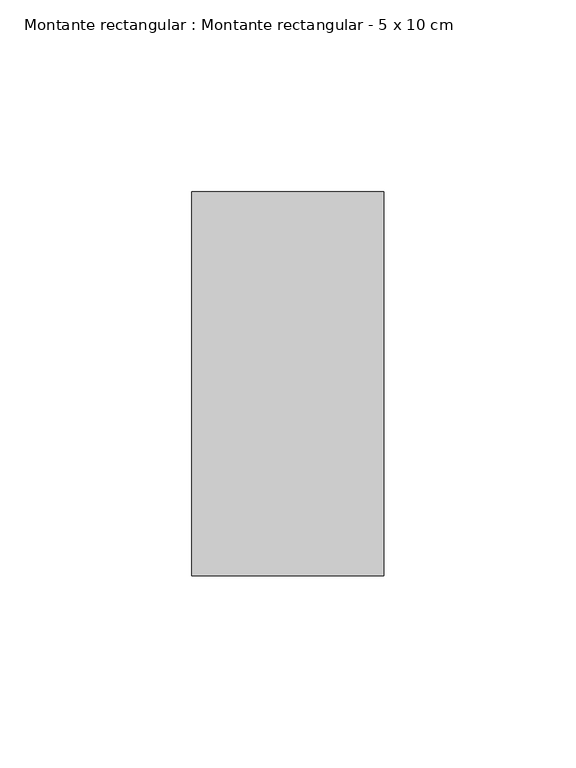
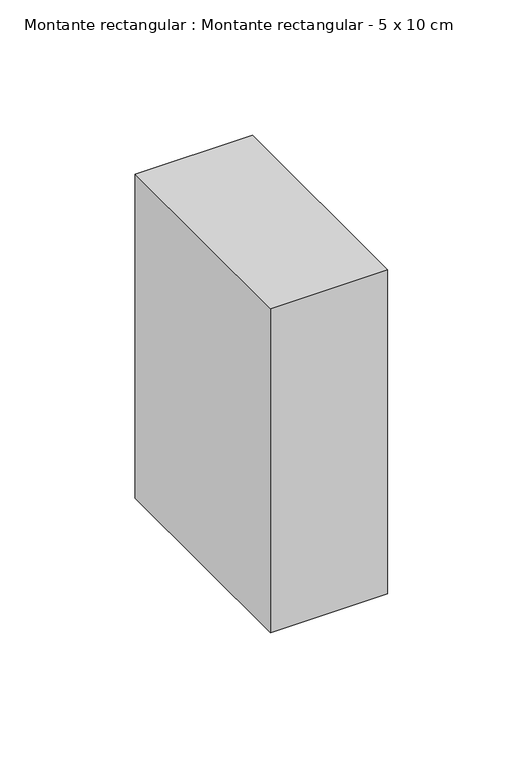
"""IFC4 building model written with IfcOpenShell, lengths in millimetres: member geometry, Montante rectangular : Montante rectangular - 5 x 10 cm."""

from ifc_helpers import new_model, si_unit, frame, origin, place, context, project, spatial, polyline, outline, extrude, source, transform, mapped, element, save


def montante_rectangular_montante_rectangular_5_x_10_cm_fb952a10(model_context):
    return source(origin(), model_context, "Body", "SweptSolid", [
        extrude(outline(polyline([(-50.0, 50.0), (0.0, 50.0), (0.0, -50.0), (-50.0, -50.0), (-50.0, 50.0)])), frame((0.0, 0.0, -146.1603928), z_axis=(0.0, 0.0, 1.0), x_axis=(1.0, 0.0, 0.0)), (0.0, 0.0, 1.0), 146.1603928),
    ])


if __name__ == "__main__":
    model = new_model("IFC4")
    model_context = context("Model", 3, world=origin())
    ifc_project = project(units=[si_unit("LENGTHUNIT", "METRE", prefix="MILLI")], contexts=[model_context])
    site = spatial("IfcSite", under=ifc_project)
    building = spatial("IfcBuilding", under=site)
    placement = place(None, origin())
    montante_rectangular_montante_rectangular_5_x_10_cm_shape = montante_rectangular_montante_rectangular_5_x_10_cm_fb952a10(model_context)
    element("IfcMember", 1, ObjectType="Montante rectangular : Montante rectangular - 5 x 10 cm", at=placement, inside=building, context=model_context, shape_type="MappedRepresentation", body=[
        mapped(montante_rectangular_montante_rectangular_5_x_10_cm_shape, transform((0.0, 0.0, 0.0), x_axis=(1.0, 0.0, 0.0), y_axis=(0.0, 1.0, 0.0), z_axis=(0.0, 0.0, 1.0))),
    ])
    save(model, "model.ifc")
